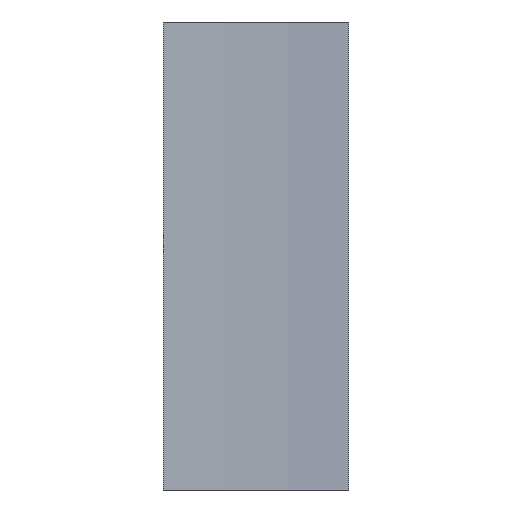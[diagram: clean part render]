
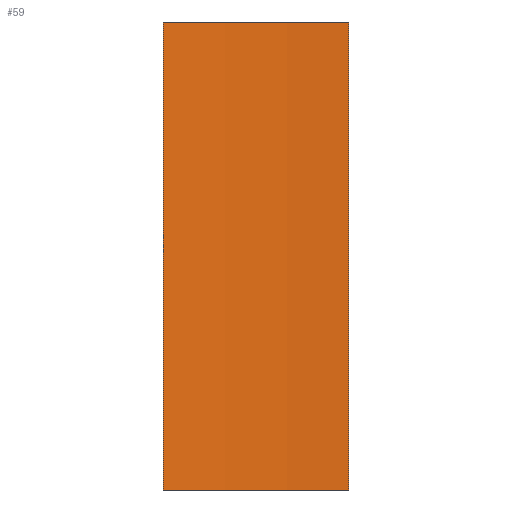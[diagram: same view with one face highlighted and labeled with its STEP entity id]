
A CAD part, left-side view. The second image highlights one B-rep face of the part: STEP entity #59.
In plain terms, the highlighted cylindrical face has radius 10 mm (diameter 20 mm), a partial arc.
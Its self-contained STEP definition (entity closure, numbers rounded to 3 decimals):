
#1=CARTESIAN_POINT('',(0.,0.,0.));
#2=CARTESIAN_POINT('',(10.,0.,0.));
#3=CARTESIAN_POINT('',(9.95,0.998,0.));
#4=CARTESIAN_POINT('',(9.801,1.987,0.));
#5=CARTESIAN_POINT('',(9.801,1.987,5.));
#6=CARTESIAN_POINT('',(10.,0.,5.));
#7=CARTESIAN_POINT('',(0.,0.,5.));
#10=DIRECTION('',(0.,0.,1.));
#11=DIRECTION('',(1.,0.,0.));
#12=AXIS2_PLACEMENT_3D('',#1,#10,#11);
#13=AXIS2_PLACEMENT_3D('',#7,#10,#11);
#20=VERTEX_POINT('',#2);
#21=VERTEX_POINT('',#3);
#22=VERTEX_POINT('',#4);
#23=VERTEX_POINT('',#5);
#24=VERTEX_POINT('',#6);
#30=CIRCLE('',#12,10.);
#31=CIRCLE('',#13,10.);
#32=TRIMMED_CURVE('',#30,(PARAMETER_VALUE(0.)),(PARAMETER_VALUE(0.1)),.T.,.PARAMETER.);
#33=TRIMMED_CURVE('',#30,(PARAMETER_VALUE(0.1)),(PARAMETER_VALUE(6.283)),.T.,.PARAMETER.);
#34=TRIMMED_CURVE('',#30,(PARAMETER_VALUE(0.)),(PARAMETER_VALUE(0.2)),.T.,.PARAMETER.);
#35=TRIMMED_CURVE('',#31,(PARAMETER_VALUE(0.)),(PARAMETER_VALUE(0.2)),.T.,.PARAMETER.);
#36=VECTOR('',#10,1.);
#37=LINE('',#4,#36);
#38=LINE('',#2,#36);
#40=EDGE_CURVE('',#20,#21,#32,.T.);
#41=EDGE_CURVE('',#21,#20,#33,.T.);
#42=EDGE_CURVE('',#20,#22,#34,.T.);
#43=EDGE_CURVE('',#22,#23,#37,.T.);
#44=EDGE_CURVE('',#24,#23,#35,.T.);
#45=EDGE_CURVE('',#20,#24,#38,.T.);
#50=ORIENTED_EDGE('',*,*,#40,.T.);
#51=ORIENTED_EDGE('',*,*,#41,.T.);
#52=ORIENTED_EDGE('',*,*,#42,.T.);
#53=ORIENTED_EDGE('',*,*,#43,.T.);
#54=ORIENTED_EDGE('',*,*,#44,.F.);
#55=ORIENTED_EDGE('',*,*,#45,.F.);
#56=EDGE_LOOP('',(#50,#51,#52,#53,#54,#55));
#57=FACE_OUTER_BOUND('',#56,.T.);
#58=CYLINDRICAL_SURFACE('',#12,10.);
#59=ADVANCED_FACE('',(#57),#58,.T.);
